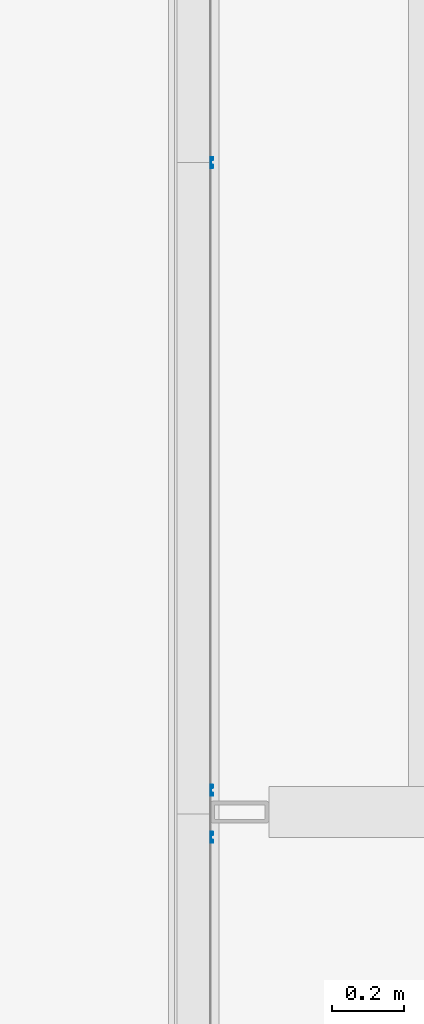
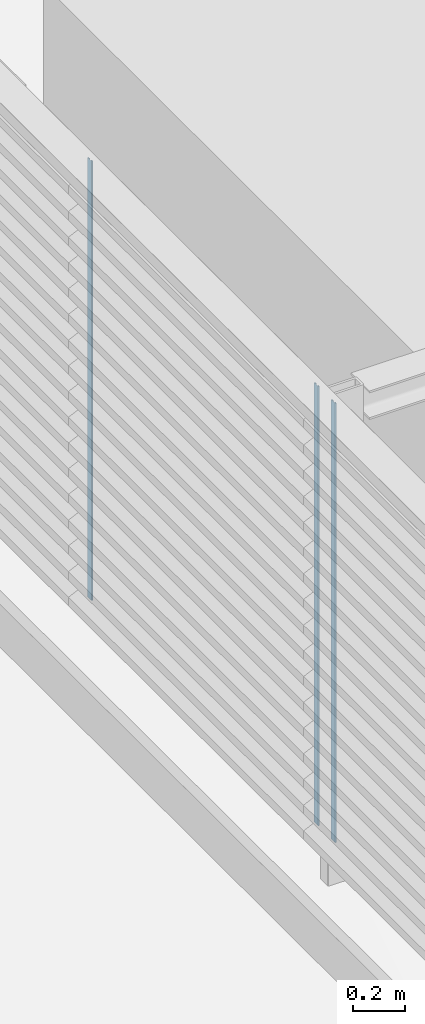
# One storey, part 12 of 32: 3 members, 2 elements without a shape of their own.
"""IFC2X3 building model written with IfcOpenShell, lengths in millimetres."""

from ifc_helpers import new_model, entity, si_unit, converted_unit, derived_unit, direction, frame, frame_2d, origin, place, context, subcontext, project, spatial, polyline, circle_curve, parameter, trimmed, segment, composite_curve, outline, extrude, source, transform, mapped, material, type_object, type_shapes, element, aggregate, save


model = new_model("IFC2X3")

# Units and contexts
model_context = context("Model", 3, precision=0.01, world=origin(), true_north=direction((6.123031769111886e-17, 1.0)))
body_context = subcontext(model_context, "Body", "Model", "MODEL_VIEW")
ifc_project = project(units=[si_unit("LENGTHUNIT", "METRE", prefix="MILLI"), si_unit("AREAUNIT", "SQUARE_METRE"), si_unit("VOLUMEUNIT", "CUBIC_METRE"), converted_unit("PLANEANGLEUNIT", "DEGREE", entity("IfcRatioMeasure", 0.017453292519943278), si_unit("PLANEANGLEUNIT", "RADIAN"), dimensions=[0, 0, 0, 0, 0, 0, 0]), si_unit("MASSUNIT", "GRAM", prefix="KILO"), derived_unit("MASSDENSITYUNIT", [(si_unit("MASSUNIT", "GRAM", prefix="KILO"), 1), (si_unit("LENGTHUNIT", "METRE"), -3)]), derived_unit("IONCONCENTRATIONUNIT", [(si_unit("MASSUNIT", "GRAM", prefix="KILO"), 1), (si_unit("LENGTHUNIT", "METRE"), -3)]), derived_unit("MOMENTOFINERTIAUNIT", [(si_unit("LENGTHUNIT", "METRE"), 4)]), si_unit("TIMEUNIT", "SECOND"), si_unit("FREQUENCYUNIT", "HERTZ"), si_unit("THERMODYNAMICTEMPERATUREUNIT", "DEGREE_CELSIUS"), derived_unit("THERMALTRANSMITTANCEUNIT", [(si_unit("MASSUNIT", "GRAM", prefix="KILO"), 1), (si_unit("THERMODYNAMICTEMPERATUREUNIT", "KELVIN"), -1), (si_unit("TIMEUNIT", "SECOND"), -3)]), derived_unit("THERMALCONDUCTANCEUNIT", [(si_unit("MASSUNIT", "GRAM", prefix="KILO"), 1), (si_unit("THERMODYNAMICTEMPERATUREUNIT", "KELVIN"), -1), (si_unit("TIMEUNIT", "SECOND"), -3), (si_unit("LENGTHUNIT", "METRE"), 1)]), derived_unit("VOLUMETRICFLOWRATEUNIT", [(si_unit("LENGTHUNIT", "METRE"), 3), (si_unit("TIMEUNIT", "SECOND"), -1)]), derived_unit("MASSFLOWRATEUNIT", [(si_unit("MASSUNIT", "GRAM", prefix="KILO"), 1), (si_unit("TIMEUNIT", "SECOND"), -1)]), derived_unit("ROTATIONALFREQUENCYUNIT", [(si_unit("TIMEUNIT", "SECOND"), -1)]), si_unit("ELECTRICCURRENTUNIT", "AMPERE"), si_unit("ELECTRICVOLTAGEUNIT", "VOLT"), si_unit("POWERUNIT", "WATT"), si_unit("FORCEUNIT", "NEWTON", prefix="KILO"), si_unit("ILLUMINANCEUNIT", "LUX"), si_unit("LUMINOUSFLUXUNIT", "LUMEN"), si_unit("LUMINOUSINTENSITYUNIT", "CANDELA"), derived_unit("USERDEFINED", [(si_unit("MASSUNIT", "GRAM", prefix="KILO"), -1), (si_unit("LENGTHUNIT", "METRE"), -2), (si_unit("TIMEUNIT", "SECOND"), 3), (si_unit("LUMINOUSFLUXUNIT", "LUMEN"), 1)]), derived_unit("USERDEFINED", [(si_unit("MASSUNIT", "GRAM", prefix="KILO"), 1), (si_unit("TIMEUNIT", "SECOND"), -3), (si_unit("LENGTHUNIT", "METRE"), 3), (si_unit("ELECTRICCURRENTUNIT", "AMPERE"), -2)]), derived_unit("SOUNDPOWERUNIT", [(si_unit("MASSUNIT", "GRAM", prefix="KILO"), 1), (si_unit("TIMEUNIT", "SECOND"), -3), (si_unit("LENGTHUNIT", "METRE"), 2)]), derived_unit("SOUNDPRESSUREUNIT", [(si_unit("MASSUNIT", "GRAM", prefix="KILO"), 1), (si_unit("LENGTHUNIT", "METRE"), -1), (si_unit("TIMEUNIT", "SECOND"), -2)]), derived_unit("LINEARVELOCITYUNIT", [(si_unit("LENGTHUNIT", "METRE"), 1), (si_unit("TIMEUNIT", "SECOND"), -1)]), si_unit("PRESSUREUNIT", "PASCAL"), derived_unit("USERDEFINED", [(si_unit("MASSUNIT", "GRAM", prefix="KILO"), 1), (si_unit("LENGTHUNIT", "METRE"), -2), (si_unit("TIMEUNIT", "SECOND"), -2)]), derived_unit("LINEARFORCEUNIT", [(si_unit("MASSUNIT", "GRAM", prefix="KILO"), 1), (si_unit("TIMEUNIT", "SECOND"), -2)]), derived_unit("PLANARFORCEUNIT", [(si_unit("MASSUNIT", "GRAM", prefix="KILO"), 1), (si_unit("LENGTHUNIT", "METRE"), -1), (si_unit("TIMEUNIT", "SECOND"), -2)]), derived_unit("SPECIFICHEATCAPACITYUNIT", [(si_unit("THERMODYNAMICTEMPERATUREUNIT", "KELVIN"), -1), (si_unit("LENGTHUNIT", "METRE"), 2), (si_unit("TIMEUNIT", "SECOND"), -2)]), derived_unit("HEATINGVALUEUNIT", [(si_unit("LENGTHUNIT", "METRE"), 2), (si_unit("TIMEUNIT", "SECOND"), -2)]), derived_unit("VAPORPERMEABILITYUNIT", [(si_unit("LENGTHUNIT", "METRE"), -1), (si_unit("TIMEUNIT", "SECOND"), 1)]), derived_unit("DYNAMICVISCOSITYUNIT", [(si_unit("MASSUNIT", "GRAM", prefix="KILO"), 1), (si_unit("TIMEUNIT", "SECOND"), -1), (si_unit("LENGTHUNIT", "METRE"), -1)]), derived_unit("THERMALEXPANSIONCOEFFICIENTUNIT", [(si_unit("THERMODYNAMICTEMPERATUREUNIT", "KELVIN"), -1)]), derived_unit("MODULUSOFELASTICITYUNIT", [(si_unit("MASSUNIT", "GRAM", prefix="KILO"), 1), (si_unit("LENGTHUNIT", "METRE"), -1), (si_unit("TIMEUNIT", "SECOND"), -2)]), derived_unit("ISOTHERMALMOISTURECAPACITYUNIT", [(si_unit("LENGTHUNIT", "METRE"), 3), (si_unit("MASSUNIT", "GRAM", prefix="KILO"), -1)]), derived_unit("MOISTUREDIFFUSIVITYUNIT", [(si_unit("TIMEUNIT", "SECOND"), -1), (si_unit("LENGTHUNIT", "METRE"), 2)])], contexts=[model_context])

# Site, building, storey
site_placement = place(None, frame((0.0, 300.0, 0.0)))
site = spatial("IfcSite", under=ifc_project, at=site_placement, Name="<Kadastrale nummers>", CompositionType="ELEMENT")
building_placement = place(site_placement, origin())
building = spatial("IfcBuilding", under=site, at=building_placement, CompositionType="ELEMENT")
storey_placement = place(building_placement, frame((0.0, 0.0, 7150.000035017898)))
storey = spatial("IfcBuildingStorey", under=building, at=storey_placement, Name="02 tweede verdieping", CompositionType="ELEMENT", Elevation=7150.000035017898)

# Curtain wall, member
curtain_wall_type = type_object("IfcCurtainWallType", Name="Curtain Wall:NLRS_21_CWA_lamellenwand Linius - L.120 met LD.0065_Storax", PredefinedType="NOTDEFINED")
curtain_wall_1_placement = place(storey_placement, frame((0.0, 0.0, -7150.000035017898)))
curtain_wall_1 = element("IfcCurtainWall", 1, at=curtain_wall_1_placement, inside=storey, type_object=curtain_wall_type, Name="Curtain Wall:NLRS_21_CWA_lamellenwand Linius - L.120 met LD.0065_Storax", ObjectType="Curtain Wall:NLRS_21_CWA_lamellenwand Linius - L.120 met LD.0065_Storax")
ifc_material = material(Name="STAAL_RAL 7006")
member_type_1 = type_object("IfcMemberType", Name="Rectangular Mullion:NLRS_21_CWM_drager LD.0065 - rechts_Storax", PredefinedType="MULLION", material=ifc_material)
shared_shape_1 = source(origin(), body_context, "Body", "SweptSolid", [
    extrude(outline(composite_curve([segment(polyline([(-3.696834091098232, -15.00102402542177), (1.423463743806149, -15.00102402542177)]), True, "CONTINUOUS"), segment(trimmed(circle_curve(frame_2d((1.423463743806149, -14.001024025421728), x_axis=(0.0, -1.0)), 0.9999999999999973), [parameter(0.0)], [parameter(241.3401018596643)], True, "PARAMETER"), True, "CONTINUOUS"), segment(polyline([(0.5459816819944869, -13.521414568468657), (-2.1968340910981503, -13.521414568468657)]), True, "CONTINUOUS"), segment(polyline([(-2.1968340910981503, -13.521414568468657), (-2.1968340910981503, -9.648596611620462)]), True, "CONTINUOUS"), segment(polyline([(-2.1968340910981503, -9.648596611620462), (2.8031659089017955, -9.648596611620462)]), True, "CONTINUOUS"), segment(polyline([(2.8031659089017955, -9.648596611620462), (2.8031659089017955, -7.88796411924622)]), True, "CONTINUOUS"), segment(polyline([(2.8031659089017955, -7.88796411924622), (1.6031201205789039, -7.88796411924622)]), True, "CONTINUOUS"), segment(polyline([(1.6031201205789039, -7.88796411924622), (1.6031201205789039, -6.348596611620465)]), True, "CONTINUOUS"), segment(polyline([(1.6031201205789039, -6.348596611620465), (-0.24734056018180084, -6.348596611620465)]), True, "CONTINUOUS"), segment(polyline([(-0.24734056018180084, -6.348596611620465), (-0.24734056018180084, -7.88796411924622)]), True, "CONTINUOUS"), segment(polyline([(-0.24734056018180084, -7.88796411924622), (-2.1968340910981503, -7.88796411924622)]), True, "CONTINUOUS"), segment(polyline([(-2.1968340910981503, -7.88796411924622), (-2.1968340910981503, 7.885916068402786)]), True, "CONTINUOUS"), segment(polyline([(-2.1968340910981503, 7.885916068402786), (-0.24734056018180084, 7.885916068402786)]), True, "CONTINUOUS"), segment(polyline([(-0.24734056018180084, 7.885916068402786), (-0.24734056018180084, 6.358836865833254)]), True, "CONTINUOUS"), segment(polyline([(-0.24734056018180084, 6.358836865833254), (1.6031201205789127, 6.358836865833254)]), True, "CONTINUOUS"), segment(polyline([(1.6031201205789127, 6.358836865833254), (1.6031201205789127, 7.885916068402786)]), True, "CONTINUOUS"), segment(polyline([(1.6031201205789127, 7.885916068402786), (2.8031659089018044, 7.885916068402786)]), True, "CONTINUOUS"), segment(polyline([(2.8031659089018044, 7.885916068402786), (2.8031659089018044, 9.646548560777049)]), True, "CONTINUOUS"), segment(polyline([(2.8031659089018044, 9.646548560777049), (-2.196834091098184, 9.646548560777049)]), True, "CONTINUOUS"), segment(polyline([(-2.196834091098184, 9.646548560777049), (-2.196834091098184, 13.519366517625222)]), True, "CONTINUOUS"), segment(polyline([(-2.196834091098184, 13.519366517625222), (0.5459816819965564, 13.519366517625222)]), True, "CONTINUOUS"), segment(trimmed(circle_curve(frame_2d((1.4234637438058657, 13.99897597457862), x_axis=(-0.8774820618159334, -0.47960945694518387)), 1.0000000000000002), [parameter(0.0)], [parameter(241.34010186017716)], True, "PARAMETER"), True, "CONTINUOUS"), segment(polyline([(1.4234637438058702, 14.998975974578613), (-3.696834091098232, 14.998975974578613)]), True, "CONTINUOUS"), segment(polyline([(-3.696834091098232, 14.998975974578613), (-3.696834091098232, -15.00102402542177)]), True, "CONTINUOUS")], self_intersect=False)), frame((-64.99897597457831, -4.696834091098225, -2049.999964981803), z_axis=(0.0, 0.0, 1.0), x_axis=(0.0, -1.0, 0.0)), (0.0, 0.0, 1.0), 2049.9999649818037),
])
type_shapes(member_type_1, [shared_shape_1])
member_1_placement = place(curtain_wall_1_placement, frame((38414.0, 38995.0, 9700.0), z_axis=(0.0, 0.0, 1.0), x_axis=(0.0, 1.0, 0.0)))
member_1 = element("IfcMember", 2, at=member_1_placement, type_object=member_type_1, material=ifc_material, Name="Rectangular Mullion:NLRS_21_CWM_drager LD.0065 - rechts_Storax", ObjectType="Rectangular Mullion:NLRS_21_CWM_drager LD.0065 - rechts_Storax", context=body_context, shape_type="MappedRepresentation", body=[
    mapped(shared_shape_1, transform((0.0, 0.0, 0.0), scale=1.0)),
])
aggregate(curtain_wall_1, [member_1])

# Curtain wall, members
curtain_wall_2_placement = place(storey_placement, frame((0.0, 0.0, -7150.000035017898)))
curtain_wall_2 = element("IfcCurtainWall", 3, at=curtain_wall_2_placement, inside=storey, type_object=curtain_wall_type, Name="Curtain Wall:NLRS_21_CWA_lamellenwand Linius - L.120 met LD.0065_Storax", ObjectType="Curtain Wall:NLRS_21_CWA_lamellenwand Linius - L.120 met LD.0065_Storax")
member_type_2 = type_object("IfcMemberType", Name="Rectangular Mullion:NLRS_21_CWM_drager LD.0065 - rechts_Storax", PredefinedType="MULLION", material=ifc_material)
shared_shape_2 = source(origin(), body_context, "Body", "SweptSolid", [
    extrude(outline(composite_curve([segment(polyline([(-1.4234637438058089, -15.001024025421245), (3.696834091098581, -15.001024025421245)]), True, "CONTINUOUS"), segment(polyline([(3.696834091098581, -15.001024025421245), (3.696834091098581, 14.998975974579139)]), True, "CONTINUOUS"), segment(polyline([(3.696834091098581, 14.998975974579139), (-1.423463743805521, 14.998975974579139)]), True, "CONTINUOUS"), segment(trimmed(circle_curve(frame_2d((-1.4234637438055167, 13.998975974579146), x_axis=(0.0, 1.0)), 1.0000000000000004), [parameter(0.0)], [parameter(241.34010185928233)], True, "PARAMETER"), True, "CONTINUOUS"), segment(polyline([(-0.5459816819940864, 13.519366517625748), (2.19683409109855, 13.519366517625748)]), True, "CONTINUOUS"), segment(polyline([(2.19683409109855, 13.519366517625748), (2.19683409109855, 9.646548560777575)]), True, "CONTINUOUS"), segment(polyline([(2.19683409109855, 9.646548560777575), (-2.8031659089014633, 9.646548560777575)]), True, "CONTINUOUS"), segment(polyline([(-2.8031659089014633, 9.646548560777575), (-2.8031659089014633, 7.885916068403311)]), True, "CONTINUOUS"), segment(polyline([(-2.8031659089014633, 7.885916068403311), (-1.6031201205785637, 7.885916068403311)]), True, "CONTINUOUS"), segment(polyline([(-1.6031201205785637, 7.885916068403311), (-1.6031201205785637, 6.35883686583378)]), True, "CONTINUOUS"), segment(polyline([(-1.6031201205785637, 6.35883686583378), (0.24734056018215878, 6.35883686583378)]), True, "CONTINUOUS"), segment(polyline([(0.24734056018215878, 6.35883686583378), (0.24734056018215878, 7.885916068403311)]), True, "CONTINUOUS"), segment(polyline([(0.24734056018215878, 7.885916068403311), (2.1968340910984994, 7.885916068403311)]), True, "CONTINUOUS"), segment(polyline([(2.1968340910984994, 7.885916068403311), (2.1968340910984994, -7.887964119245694)]), True, "CONTINUOUS"), segment(polyline([(2.1968340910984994, -7.887964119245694), (0.24734056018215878, -7.887964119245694)]), True, "CONTINUOUS"), segment(polyline([(0.24734056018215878, -7.887964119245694), (0.24734056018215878, -6.348596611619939)]), True, "CONTINUOUS"), segment(polyline([(0.24734056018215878, -6.348596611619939), (-1.6031201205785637, -6.348596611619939)]), True, "CONTINUOUS"), segment(polyline([(-1.6031201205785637, -6.348596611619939), (-1.6031201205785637, -7.887964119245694)]), True, "CONTINUOUS"), segment(polyline([(-1.6031201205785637, -7.887964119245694), (-2.8031659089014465, -7.887964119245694)]), True, "CONTINUOUS"), segment(polyline([(-2.8031659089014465, -7.887964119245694), (-2.8031659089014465, -9.648596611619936)]), True, "CONTINUOUS"), segment(polyline([(-2.8031659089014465, -9.648596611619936), (2.1968340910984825, -9.648596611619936)]), True, "CONTINUOUS"), segment(polyline([(2.1968340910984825, -9.648596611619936), (2.1968340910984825, -13.521414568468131)]), True, "CONTINUOUS"), segment(polyline([(2.1968340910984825, -13.521414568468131), (-0.545981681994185, -13.521414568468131)]), True, "CONTINUOUS"), segment(trimmed(circle_curve(frame_2d((-1.423463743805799, -14.001024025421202), x_axis=(0.8774820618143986, 0.4796094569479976)), 0.9999999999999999), [parameter(0.0)], [parameter(241.34010185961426)], True, "PARAMETER"), True, "CONTINUOUS")], self_intersect=False)), frame((-64.99897597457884, 4.696834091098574, -2049.999964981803), z_axis=(0.0, 0.0, 1.0), x_axis=(0.0, -1.0, 0.0)), (0.0, 0.0, 1.0), 2049.9999649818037),
])
type_shapes(member_type_2, [shared_shape_2])
member_2_placement = place(curtain_wall_2_placement, frame((38414.0, 38995.0, 9700.0), z_axis=(0.0, 0.0, 1.0), x_axis=(0.0, -1.0, 0.0)))
member_2 = element("IfcMember", 4, at=member_2_placement, type_object=member_type_2, material=ifc_material, Name="Rectangular Mullion:NLRS_21_CWM_drager LD.0065 - rechts_Storax", ObjectType="Rectangular Mullion:NLRS_21_CWM_drager LD.0065 - rechts_Storax", context=body_context, shape_type="MappedRepresentation", body=[
    mapped(shared_shape_2, transform((0.0, 0.0, 0.0), scale=1.0)),
])
member_type_3 = type_object("IfcMemberType", Name="Rectangular Mullion:NLRS_21_CWM_drager LD.0065_Storax", PredefinedType="MULLION", material=ifc_material)
shared_shape_3 = source(origin(), body_context, "Body", "SweptSolid", [
    extrude(outline(composite_curve([segment(polyline([(-1.4234637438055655, -14.998975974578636), (3.696834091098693, -14.998975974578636)]), True, "CONTINUOUS"), segment(polyline([(3.696834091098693, -14.998975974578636), (3.696834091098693, 15.001024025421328)]), True, "CONTINUOUS"), segment(polyline([(3.696834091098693, 15.001024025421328), (-1.4234637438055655, 15.001024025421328)]), True, "CONTINUOUS"), segment(trimmed(circle_curve(frame_2d((-1.4234637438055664, 14.001024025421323), x_axis=(0.0, 1.0)), 1.0000000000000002), [parameter(0.0)], [parameter(241.34010185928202)], True, "PARAMETER"), True, "CONTINUOUS"), segment(polyline([(-0.5459816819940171, 13.521414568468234), (2.196834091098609, 13.521414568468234)]), True, "CONTINUOUS"), segment(polyline([(2.196834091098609, 13.521414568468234), (2.196834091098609, 9.648596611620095)]), True, "CONTINUOUS"), segment(polyline([(2.196834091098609, 9.648596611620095), (-2.803165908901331, 9.648596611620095)]), True, "CONTINUOUS"), segment(polyline([(-2.803165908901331, 9.648596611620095), (-2.803165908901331, 7.8879641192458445)]), True, "CONTINUOUS"), segment(polyline([(-2.803165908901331, 7.8879641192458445), (-1.6031201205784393, 7.8879641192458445)]), True, "CONTINUOUS"), segment(polyline([(-1.6031201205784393, 7.8879641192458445), (-1.6031201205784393, 6.348596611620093)]), True, "CONTINUOUS"), segment(polyline([(-1.6031201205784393, 6.348596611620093), (0.2473405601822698, 6.348596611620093)]), True, "CONTINUOUS"), segment(polyline([(0.2473405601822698, 6.348596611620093), (0.2473405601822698, 7.88796411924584)]), True, "CONTINUOUS"), segment(polyline([(0.2473405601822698, 7.88796411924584), (2.1968340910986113, 7.88796411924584)]), True, "CONTINUOUS"), segment(polyline([(2.1968340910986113, 7.88796411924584), (2.1968340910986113, -7.885916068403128)]), True, "CONTINUOUS"), segment(polyline([(2.1968340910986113, -7.885916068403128), (0.2473405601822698, -7.885916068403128)]), True, "CONTINUOUS"), segment(polyline([(0.2473405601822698, -7.885916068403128), (0.2473405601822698, -6.358836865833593)]), True, "CONTINUOUS"), segment(polyline([(0.2473405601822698, -6.358836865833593), (-1.6031201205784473, -6.358836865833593)]), True, "CONTINUOUS"), segment(polyline([(-1.6031201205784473, -6.358836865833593), (-1.6031201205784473, -7.885916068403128)]), True, "CONTINUOUS"), segment(polyline([(-1.6031201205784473, -7.885916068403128), (-2.803165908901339, -7.885916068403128)]), True, "CONTINUOUS"), segment(polyline([(-2.803165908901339, -7.885916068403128), (-2.803165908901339, -9.646548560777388)]), True, "CONTINUOUS"), segment(polyline([(-2.803165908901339, -9.646548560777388), (2.1968340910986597, -9.646548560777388)]), True, "CONTINUOUS"), segment(polyline([(2.1968340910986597, -9.646548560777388), (2.1968340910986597, -13.519366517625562)]), True, "CONTINUOUS"), segment(polyline([(2.1968340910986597, -13.519366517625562), (-0.5459816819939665, -13.519366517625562)]), True, "CONTINUOUS"), segment(trimmed(circle_curve(frame_2d((-1.4234637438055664, -13.998975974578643), x_axis=(0.8774820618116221, 0.4796094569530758)), 1.0000000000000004), [parameter(0.0)], [parameter(241.34010185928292)], True, "PARAMETER"), True, "CONTINUOUS")], self_intersect=False)), frame((-0.0010240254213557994, 4.696834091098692, -2049.999964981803), z_axis=(0.0, 0.0, 1.0), x_axis=(0.0, -1.0, 0.0)), (0.0, 0.0, 1.0), 2049.999964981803),
])
type_shapes(member_type_3, [shared_shape_3])
member_3_placement = place(curtain_wall_2_placement, frame((38414.0, 40792.500000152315, 7650.000035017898), z_axis=(0.0, 0.0, -1.0), x_axis=(0.0, 1.0, 0.0)))
member_3 = element("IfcMember", 5, at=member_3_placement, type_object=member_type_3, material=ifc_material, Name="Rectangular Mullion:NLRS_21_CWM_drager LD.0065_Storax", ObjectType="Rectangular Mullion:NLRS_21_CWM_drager LD.0065_Storax", context=body_context, shape_type="MappedRepresentation", body=[
    mapped(shared_shape_3, transform((0.0, 0.0, 0.0), scale=1.0)),
])
aggregate(curtain_wall_2, [member_2, member_3])

save(model, "model.ifc")
